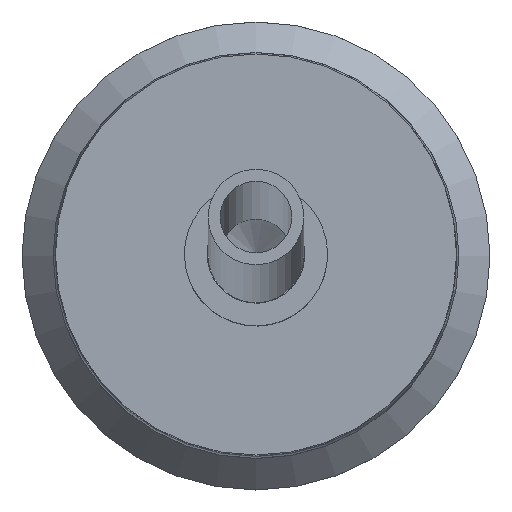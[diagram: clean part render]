
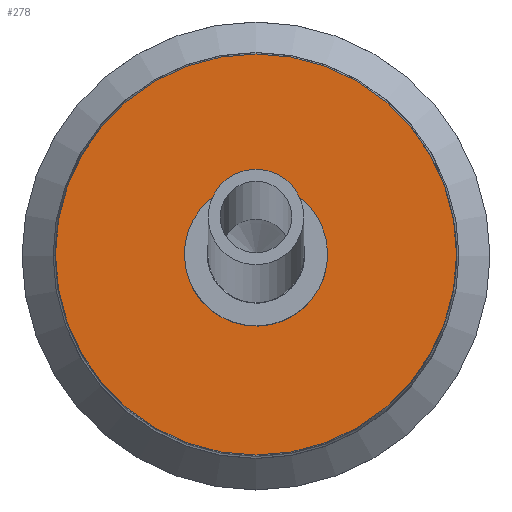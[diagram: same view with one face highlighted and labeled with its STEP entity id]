
A CAD part, top view. The second image highlights one B-rep face of the part: STEP entity #278.
In plain terms, the highlighted planar face has unit normal (0, 0, 1).
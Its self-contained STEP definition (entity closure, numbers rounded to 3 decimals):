
#203=PLANE('',#860);
#236=FACE_OUTER_BOUND('',#434,.T.);
#278=ADVANCED_FACE('',(#236,#361),#203,.T.);
#311=CIRCLE('',#805,4.2);
#330=CIRCLE('',#859,1.5);
#361=FACE_BOUND('',#435,.T.);
#434=EDGE_LOOP('',(#597));
#435=EDGE_LOOP('',(#598));
#597=ORIENTED_EDGE('',*,*,#702,.T.);
#598=ORIENTED_EDGE('',*,*,#772,.F.);
#636=VERTEX_POINT('',#1113);
#685=VERTEX_POINT('',#1428);
#702=EDGE_CURVE('',#636,#636,#311,.T.);
#772=EDGE_CURVE('',#685,#685,#330,.T.);
#805=AXIS2_PLACEMENT_3D('',#1112,#892,#893);
#859=AXIS2_PLACEMENT_3D('',#1427,#1032,#1033);
#860=AXIS2_PLACEMENT_3D('',#1429,#1034,#1035);
#892=DIRECTION('',(0.,0.,1.));
#893=DIRECTION('',(1.,0.,0.));
#1032=DIRECTION('',(0.,0.,1.));
#1033=DIRECTION('',(0.88,-0.475,0.));
#1034=DIRECTION('',(0.,0.,1.));
#1035=DIRECTION('',(1.,0.,0.));
#1112=CARTESIAN_POINT('',(0.,0.,18.1));
#1113=CARTESIAN_POINT('',(4.2,0.,18.1));
#1427=CARTESIAN_POINT('',(0.,0.,18.1));
#1428=CARTESIAN_POINT('',(1.32,-0.713,18.1));
#1429=CARTESIAN_POINT('',(0.,0.,18.1));
